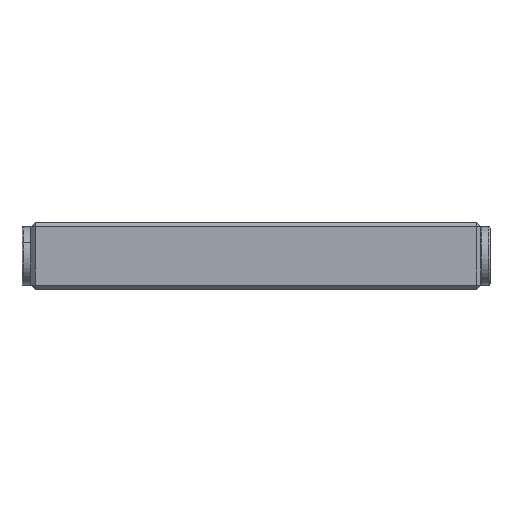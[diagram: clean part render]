
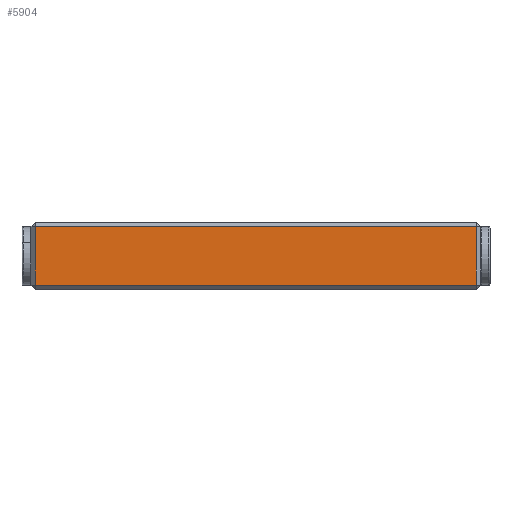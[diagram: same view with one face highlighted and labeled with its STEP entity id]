
A CAD part, top view. The second image highlights one B-rep face of the part: STEP entity #5904.
In plain terms, the highlighted planar face has unit normal (0, 0, 1).
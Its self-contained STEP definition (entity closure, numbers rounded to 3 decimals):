
#1955 = LINE ( 'NONE', #14986, #1958 ) ;
#1958 = VECTOR ( 'NONE', #14988, 1000. ) ;
#2003 = LINE ( 'NONE', #17322, #2006 ) ;
#2006 = VECTOR ( 'NONE', #17323, 1000. ) ;
#2007 = LINE ( 'NONE', #17326, #2010 ) ;
#2010 = VECTOR ( 'NONE', #17327, 1000. ) ;
#2021 = LINE ( 'NONE', #17356, #2026 ) ;
#2026 = VECTOR ( 'NONE', #17362, 1000. ) ;
#3081 = FACE_OUTER_BOUND ( 'NONE', #10730, .T. ) ;
#5904 = ADVANCED_FACE ( 'NONE', ( #3081 ), #13506, .F. ) ;
#6628 = AXIS2_PLACEMENT_3D ( 'NONE', #13502, #13561, #13562 ) ;
#8832 = EDGE_CURVE ( 'NONE', #11852, #9005, #1955, .T. ) ;
#8863 = EDGE_CURVE ( 'NONE', #11977, #9153, #2003, .T. ) ;
#8865 = EDGE_CURVE ( 'NONE', #9005, #11977, #2007, .T. ) ;
#8874 = EDGE_CURVE ( 'NONE', #9153, #11852, #2021, .T. ) ;
#9005 = VERTEX_POINT ( 'NONE', #17912 ) ;
#9153 = VERTEX_POINT ( 'NONE', #18060 ) ;
#10730 = EDGE_LOOP ( 'NONE', ( #22378, #22381, #22379, #22380 ) ) ;
#11852 = VERTEX_POINT ( 'NONE', #20393 ) ;
#11977 = VERTEX_POINT ( 'NONE', #20518 ) ;
#13502 = CARTESIAN_POINT ( 'NONE',  ( 57.427, 9.886, 23.929 ) ) ;
#13506 = PLANE ( 'NONE',  #6628 ) ;
#13561 = DIRECTION ( 'NONE',  ( 0., 0., -1. ) ) ;
#13562 = DIRECTION ( 'NONE',  ( 1., 0., 0. ) ) ;
#14986 = CARTESIAN_POINT ( 'NONE',  ( -41.573, 9.886, 23.929 ) ) ;
#14988 = DIRECTION ( 'NONE',  ( 0., -1., 0. ) ) ;
#17322 = CARTESIAN_POINT ( 'NONE',  ( 56.427, 9.886, 23.929 ) ) ;
#17323 = DIRECTION ( 'NONE',  ( 0., 1., 0. ) ) ;
#17326 = CARTESIAN_POINT ( 'NONE',  ( 57.427, 10.886, 23.929 ) ) ;
#17327 = DIRECTION ( 'NONE',  ( 1., 0., 0. ) ) ;
#17356 = CARTESIAN_POINT ( 'NONE',  ( 57.427, 23.886, 23.929 ) ) ;
#17362 = DIRECTION ( 'NONE',  ( -1., 0., 0. ) ) ;
#17912 = CARTESIAN_POINT ( 'NONE',  ( -41.573, 10.886, 23.929 ) ) ;
#18060 = CARTESIAN_POINT ( 'NONE',  ( 56.427, 23.886, 23.929 ) ) ;
#20393 = CARTESIAN_POINT ( 'NONE',  ( -41.573, 23.886, 23.929 ) ) ;
#20518 = CARTESIAN_POINT ( 'NONE',  ( 56.427, 10.886, 23.929 ) ) ;
#22378 = ORIENTED_EDGE ( 'NONE', *, *, #8865, .T. ) ;
#22379 = ORIENTED_EDGE ( 'NONE', *, *, #8874, .T. ) ;
#22380 = ORIENTED_EDGE ( 'NONE', *, *, #8832, .T. ) ;
#22381 = ORIENTED_EDGE ( 'NONE', *, *, #8863, .T. ) ;
